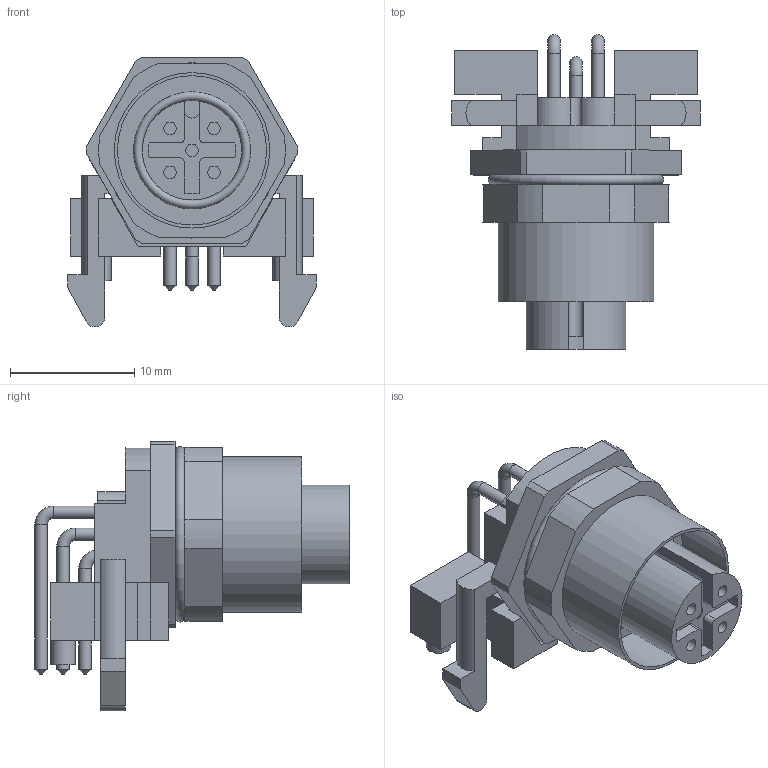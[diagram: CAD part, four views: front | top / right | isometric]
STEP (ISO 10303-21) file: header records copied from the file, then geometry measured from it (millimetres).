
FILE_DESCRIPTION((''),'2;1');
FILE_NAME('C:\TurckZip\WFKFDH-5pin.stp','2007-07-25T13:37:47',('IKOROL'),(''),'Autodesk Inventor 11','Autodesk Inventor 11','');
FILE_SCHEMA(('AUTOMOTIVE_DESIGN { 1 0 10303 214 1 1 1 1 }'));
Length unit declared in the file: millimetre
Products named in the file (1): WFKFDH 4.5
Bounding box: 20 x 25.27 x 21.7 mm (x, y, z)
Surface area: 2807.9 mm2 (no closed solid volume)
Topology: 0 solids, 1 shells, 174 faces, 447 edges, 293 vertices
Faces by surface type: plane 107, cylinder 55, torus 7, cone 5
Full cylindrical faces by diameter (mm): 1 x16, 1.3 x1, 2 x2, 12 x1, 12.5 x2
Entity records: 4997 total; most frequent: DIRECTION 868, CARTESIAN_POINT 852, ORIENTED_EDGE 796, EDGE_CURVE 398, AXIS2_PLACEMENT_3D 295, VERTEX_POINT 279, VECTOR 278, LINE 278
